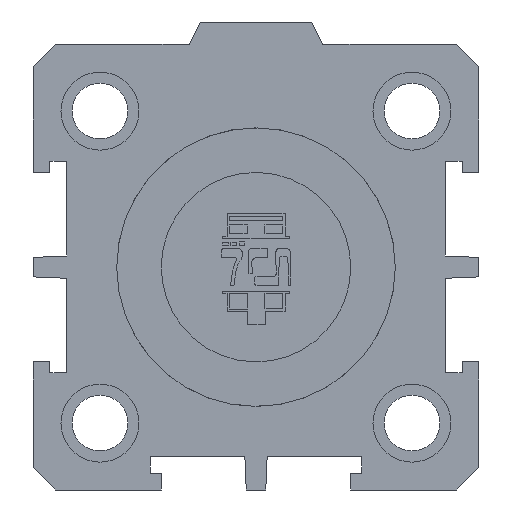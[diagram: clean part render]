
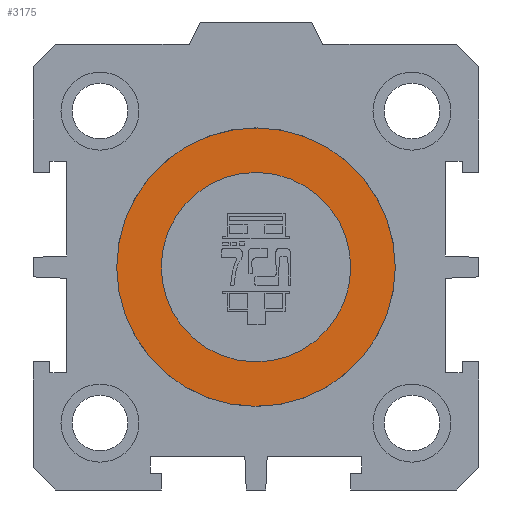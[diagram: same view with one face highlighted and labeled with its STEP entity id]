
A CAD part, left-side view. The second image highlights one B-rep face of the part: STEP entity #3175.
In plain terms, the highlighted planar face has unit normal (-1, 0, 0).
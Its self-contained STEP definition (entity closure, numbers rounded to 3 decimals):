
#3118=CARTESIAN_POINT('Axis2P3D Location',(3.5,0.,12.5)) ;
#3123=CARTESIAN_POINT('Axis2P3D Location',(3.5,0.,0.)) ;
#3127=CARTESIAN_POINT('Vertex',(3.5,-5.993,-10.97)) ;
#3129=CARTESIAN_POINT('Vertex',(3.5,-12.5,0.)) ;
#3132=CARTESIAN_POINT('Axis2P3D Location',(3.5,0.,0.)) ;
#3136=CARTESIAN_POINT('Vertex',(3.5,5.993,10.97)) ;
#3139=CARTESIAN_POINT('Axis2P3D Location',(3.5,0.,0.)) ;
#3143=CARTESIAN_POINT('Vertex',(3.5,12.5,0.)) ;
#3146=CARTESIAN_POINT('Axis2P3D Location',(3.5,0.,0.)) ;
#3157=CARTESIAN_POINT('Axis2P3D Location',(3.5,0.,0.)) ;
#3161=CARTESIAN_POINT('Vertex',(3.5,4.075,7.459)) ;
#3163=CARTESIAN_POINT('Vertex',(3.5,-4.075,-7.459)) ;
#3166=CARTESIAN_POINT('Axis2P3D Location',(3.5,0.,0.)) ;
#3119=DIRECTION('Axis2P3D Direction',(-1.,0.,0.)) ;
#3120=DIRECTION('Axis2P3D XDirection',(0.,1.,0.)) ;
#3124=DIRECTION('Axis2P3D Direction',(-1.,0.,0.)) ;
#3133=DIRECTION('Axis2P3D Direction',(-1.,0.,0.)) ;
#3140=DIRECTION('Axis2P3D Direction',(-1.,0.,0.)) ;
#3147=DIRECTION('Axis2P3D Direction',(-1.,0.,0.)) ;
#3158=DIRECTION('Axis2P3D Direction',(-1.,0.,0.)) ;
#3167=DIRECTION('Axis2P3D Direction',(-1.,0.,0.)) ;
#3121=AXIS2_PLACEMENT_3D('Plane Axis2P3D',#3118,#3119,#3120) ;
#3125=AXIS2_PLACEMENT_3D('Circle Axis2P3D',#3123,#3124,$) ;
#3134=AXIS2_PLACEMENT_3D('Circle Axis2P3D',#3132,#3133,$) ;
#3141=AXIS2_PLACEMENT_3D('Circle Axis2P3D',#3139,#3140,$) ;
#3148=AXIS2_PLACEMENT_3D('Circle Axis2P3D',#3146,#3147,$) ;
#3159=AXIS2_PLACEMENT_3D('Circle Axis2P3D',#3157,#3158,$) ;
#3168=AXIS2_PLACEMENT_3D('Circle Axis2P3D',#3166,#3167,$) ;
#3152=ORIENTED_EDGE('',*,*,#3131,.T.) ;
#3153=ORIENTED_EDGE('',*,*,#3138,.T.) ;
#3154=ORIENTED_EDGE('',*,*,#3145,.T.) ;
#3155=ORIENTED_EDGE('',*,*,#3150,.T.) ;
#3172=ORIENTED_EDGE('',*,*,#3165,.F.) ;
#3173=ORIENTED_EDGE('',*,*,#3170,.F.) ;
#3174=FACE_BOUND('',#3171,.T.) ;
#3175=ADVANCED_FACE('PartBody',(#3156,#3174),#3122,.T.) ;
#3126=CIRCLE('generated circle',#3125,12.5) ;
#3135=CIRCLE('generated circle',#3134,12.5) ;
#3142=CIRCLE('generated circle',#3141,12.5) ;
#3149=CIRCLE('generated circle',#3148,12.5) ;
#3160=CIRCLE('generated circle',#3159,8.5) ;
#3169=CIRCLE('generated circle',#3168,8.5) ;
#3131=EDGE_CURVE('',#3128,#3130,#3126,.T.) ;
#3138=EDGE_CURVE('',#3130,#3137,#3135,.T.) ;
#3145=EDGE_CURVE('',#3137,#3144,#3142,.T.) ;
#3150=EDGE_CURVE('',#3144,#3128,#3149,.T.) ;
#3165=EDGE_CURVE('',#3162,#3164,#3160,.T.) ;
#3170=EDGE_CURVE('',#3164,#3162,#3169,.T.) ;
#3151=EDGE_LOOP('',(#3152,#3153,#3154,#3155)) ;
#3171=EDGE_LOOP('',(#3172,#3173)) ;
#3156=FACE_OUTER_BOUND('',#3151,.T.) ;
#3122=PLANE('',#3121) ;
#3128=VERTEX_POINT('',#3127) ;
#3130=VERTEX_POINT('',#3129) ;
#3137=VERTEX_POINT('',#3136) ;
#3144=VERTEX_POINT('',#3143) ;
#3162=VERTEX_POINT('',#3161) ;
#3164=VERTEX_POINT('',#3163) ;
